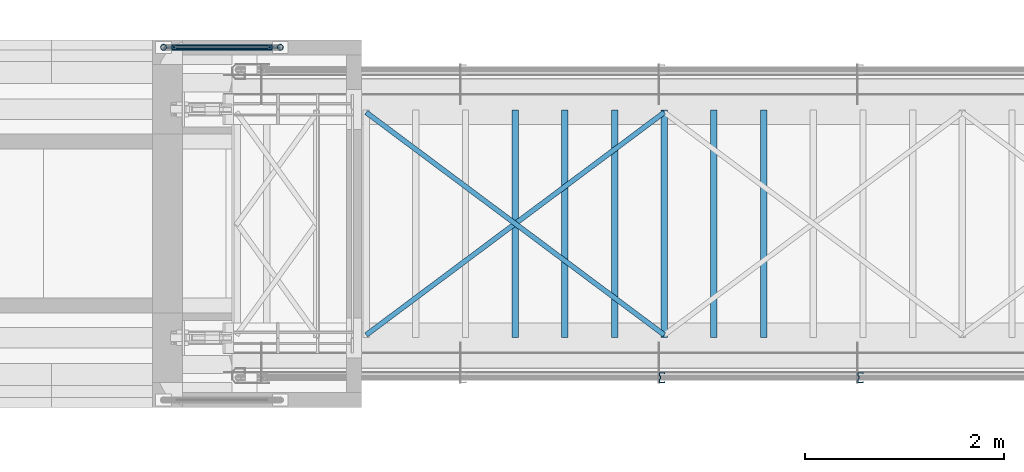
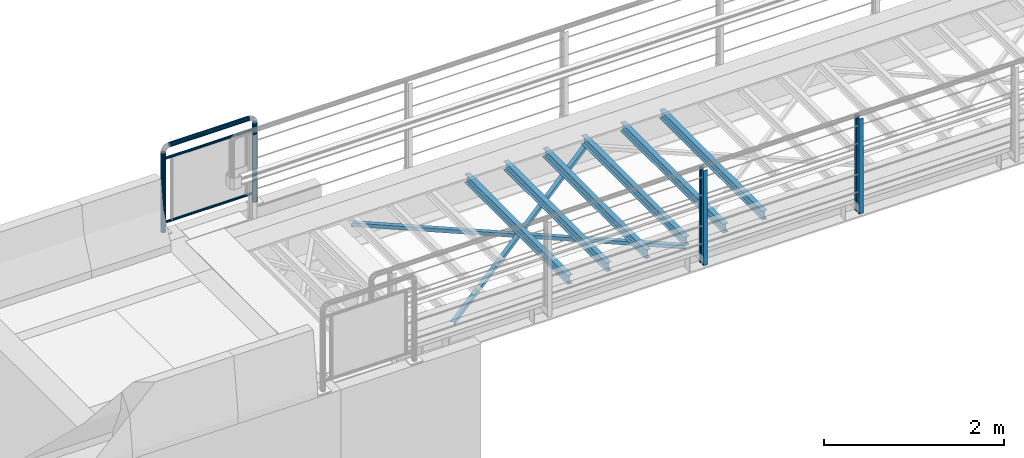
# One storey, part 6 of 31: 15 beams.
"""IFC2X3 building model written with IfcOpenShell, lengths in millimetres."""

from ifc_helpers import new_model, si_unit, frame, origin_with_axes, place, context, subcontext, project, spatial, faceted_brep, material, type_object, element, save


model = new_model("IFC2X3")

# Units and contexts
model_context = context("Model", 3, precision=1e-05, world=origin_with_axes())
body_context = subcontext(model_context, "Body", "Model", "MODEL_VIEW")
ifc_project = project(units=[si_unit("LENGTHUNIT", "METRE", prefix="MILLI"), si_unit("AREAUNIT", "SQUARE_METRE"), si_unit("VOLUMEUNIT", "CUBIC_METRE"), si_unit("MASSUNIT", "GRAM", prefix="KILO"), si_unit("TIMEUNIT", "SECOND"), si_unit("PLANEANGLEUNIT", "RADIAN"), si_unit("SOLIDANGLEUNIT", "STERADIAN"), si_unit("THERMODYNAMICTEMPERATUREUNIT", "DEGREE_CELSIUS"), si_unit("LUMINOUSINTENSITYUNIT", "LUMEN")], contexts=[model_context])

# Site, building, storey
site_placement = place(None, origin_with_axes())
site = spatial("IfcSite", under=ifc_project, at=site_placement, Name="Undefined", CompositionType="ELEMENT")
building_placement = place(site_placement, origin_with_axes())
building = spatial("IfcBuilding", under=site, at=building_placement, Name="Undefined", CompositionType="ELEMENT")
storey_placement = place(building_placement, origin_with_axes())
storey = spatial("IfcBuildingStorey", under=building, at=storey_placement, Name="Undefined", CompositionType="ELEMENT", Elevation=0.0)

# Beams
ifc_material = material(Name="STEEL/S355J2+N")
beam_type_1 = type_object("IfcBeamType", Name="IPE120", PredefinedType="NOTDEFINED")
for number, where, z_axis, x_axis in (
    (1, (8450.0, 5.75, -105.0), (0.0, 0.0, 1.0), (0.0, 1.0, 0.0)),
    (2, (7950.0, 5.75, -105.0), (0.0, 0.0, 1.0), (0.0, 1.0, 0.0)),
    (3, (7450.0, 5.75, -105.0), (0.0, 0.0, 1.0), (0.0, 1.0, 0.0)),
    (4, (6950.0, 5.75, -105.0), (0.0, 0.0, 1.0), (0.0, 1.0, 0.0)),
    (5, (6450.0, 5.75, -105.0), (0.0, 0.0, 1.0), (0.0, 1.0, 0.0)),
    (6, (5950.0, 5.75, -105.0), (0.0, 0.0, 1.0), (0.0, 1.0, 0.0)),
):
    element("IfcBeam", number, at=place(storey_placement, frame(where, z_axis=z_axis, x_axis=x_axis)), inside=storey, type_object=beam_type_1, material=ifc_material, Name="STÅLBJELKE", context=body_context, shape_type="Brep", body=[
        faceted_brep([(0.0, 32.0, -60.0), (0.0, 32.0, -53.699999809), (2288.5, 32.0, -53.699999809), (2288.5, 32.0, -60.0), (0.0, 2.2000000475, -53.699999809), (2288.5, 2.2000000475, -53.699999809), (0.0, 2.2000000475, 53.699999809), (2288.5, 2.2000000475, 53.699999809), (0.0, 32.0, 53.699999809), (2288.5, 32.0, 53.699999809), (0.0, 32.0, 60.0), (2288.5, 32.0, 60.0), (0.0, -32.0, 60.0), (2288.5, -32.0, 60.0), (0.0, -32.0, 53.699999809), (2288.5, -32.0, 53.699999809), (0.0, -2.2000000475, 53.699999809), (2288.5, -2.2000000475, 53.699999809), (0.0, -2.2000000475, -53.699999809), (2288.5, -2.2000000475, -53.699999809), (0.0, -32.0, -53.699999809), (2288.5, -32.0, -53.699999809), (0.0, -32.0, -60.0), (2288.5, -32.0, -60.0)], [[[0, 1, 2, 3]], [[1, 4, 5, 2]], [[4, 6, 7, 5]], [[6, 8, 9, 7]], [[8, 10, 11, 9]], [[10, 12, 13, 11]], [[12, 14, 15, 13]], [[14, 16, 17, 15]], [[16, 18, 19, 17]], [[18, 20, 21, 19]], [[20, 22, 23, 21]], [[22, 0, 3, 23]], [[5, 7, 9, 11, 13, 15, 17, 19, 21, 23, 3, 2]], [[22, 20, 18, 16, 14, 12, 10, 8, 6, 4, 1, 0]]]),
    ])
beam_type_2 = type_object("IfcBeamType", Name="CFCHS60.3*3.2", PredefinedType="NOTDEFINED")
beam_1_placement = place(storey_placement, frame((2410.0, 2925.0, 1093.85), z_axis=(0.0, 1.0, 0.0), x_axis=(0.0, 0.0, -1.0)))
element("IfcBeam", 7, at=beam_1_placement, inside=storey, type_object=beam_type_2, material=ifc_material, Name="LKREKKVERK", context=body_context, shape_type="Brep", body=[
    faceted_brep([(0.0, -26.95, 0.0), (0.0, -24.898553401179, 10.3133185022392), (1078.85, -24.898553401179, 10.3133185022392), (1078.85, -26.9499999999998, 0.0), (0.0, -19.0565277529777, 19.0565277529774), (1078.85, -19.0565277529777, 19.0565277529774), (0.0, -10.3133185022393, 24.8985534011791), (1078.85, -10.3133185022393, 24.8985534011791), (0.0, 0.0, 26.95), (1078.85, 0.0, 26.95), (0.0, 10.3133185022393, 24.8985534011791), (1078.85, 10.3133185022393, 24.8985534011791), (0.0, 19.0565277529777, 19.0565277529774), (1078.85, 19.0565277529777, 19.0565277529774), (0.0, 24.898553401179, 10.3133185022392), (1078.85, 24.898553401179, 10.3133185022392), (0.0, 26.95, 0.0), (1078.85, 26.9499999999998, 0.0), (0.0, 24.898553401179, -10.3133185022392), (1078.85, 24.898553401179, -10.3133185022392), (0.0, 19.0565277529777, -19.0565277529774), (1078.85, 19.0565277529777, -19.0565277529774), (0.0, 10.3133185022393, -24.8985534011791), (1078.85, 10.3133185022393, -24.8985534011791), (0.0, 0.0, -26.95), (1078.85, 0.0, -26.95), (0.0, -10.3133185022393, -24.8985534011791), (1078.85, -10.3133185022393, -24.8985534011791), (0.0, -19.0565277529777, -19.0565277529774), (1078.85, -19.0565277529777, -19.0565277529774), (0.0, -24.898553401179, -10.3133185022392), (1078.85, -24.898553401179, -10.3133185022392), (0.0, -30.15, 0.0), (0.0, -27.8549679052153, -11.5379054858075), (1078.85, -27.8549679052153, -11.5379054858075), (1078.85, -30.1500000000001, 0.0), (0.0, -21.3192694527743, -21.3192694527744), (1078.85, -21.3192694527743, -21.3192694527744), (0.0, -11.5379054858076, -27.8549679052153), (1078.85, -11.5379054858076, -27.8549679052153), (0.0, 0.0, -30.15), (1078.85, 0.0, -30.15), (0.0, 11.5379054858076, -27.8549679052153), (1078.85, 11.5379054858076, -27.8549679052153), (0.0, 21.3192694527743, -21.3192694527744), (1078.85, 21.3192694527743, -21.3192694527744), (0.0, 27.8549679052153, -11.5379054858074), (1078.85, 27.8549679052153, -11.5379054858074), (0.0, 30.15, 0.0), (1078.85, 30.1500000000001, 0.0), (0.0, 27.8549679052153, 11.5379054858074), (1078.85, 27.8549679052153, 11.5379054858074), (0.0, 21.3192694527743, 21.3192694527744), (1078.85, 21.3192694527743, 21.3192694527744), (0.0, 11.5379054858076, 27.8549679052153), (1078.85, 11.5379054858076, 27.8549679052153), (0.0, 0.0, 30.15), (1078.85, 0.0, 30.15), (0.0, -11.5379054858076, 27.8549679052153), (1078.85, -11.5379054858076, 27.8549679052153), (0.0, -21.3192694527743, 21.3192694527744), (1078.85, -21.3192694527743, 21.3192694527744), (0.0, -27.8549679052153, 11.5379054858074), (1078.85, -27.8549679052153, 11.5379054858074)], [[[0, 1, 2, 3]], [[1, 4, 5, 2]], [[4, 6, 7, 5]], [[6, 8, 9, 7]], [[8, 10, 11, 9]], [[10, 12, 13, 11]], [[12, 14, 15, 13]], [[14, 16, 17, 15]], [[16, 18, 19, 17]], [[18, 20, 21, 19]], [[20, 22, 23, 21]], [[22, 24, 25, 23]], [[24, 26, 27, 25]], [[26, 28, 29, 27]], [[28, 30, 31, 29]], [[30, 0, 3, 31]], [[32, 33, 34, 35]], [[33, 36, 37, 34]], [[36, 38, 39, 37]], [[38, 40, 41, 39]], [[40, 42, 43, 41]], [[42, 44, 45, 43]], [[44, 46, 47, 45]], [[46, 48, 49, 47]], [[48, 50, 51, 49]], [[50, 52, 53, 51]], [[52, 54, 55, 53]], [[54, 56, 57, 55]], [[56, 58, 59, 57]], [[58, 60, 61, 59]], [[60, 62, 63, 61]], [[62, 32, 35, 63]], [[37, 39, 41, 43, 45, 47, 49, 51, 53, 55, 57, 59, 61, 63, 35, 34], [5, 7, 9, 11, 13, 15, 17, 19, 21, 23, 25, 27, 29, 31, 3, 2]], [[62, 60, 58, 56, 54, 52, 50, 48, 46, 44, 42, 40, 38, 36, 33, 32], [30, 28, 26, 24, 22, 20, 18, 16, 14, 12, 10, 8, 6, 4, 1, 0]]]),
])
beam_2_placement = place(storey_placement, frame((3585.15, 2925.0, 1093.85), z_axis=(0.0, 1.0, 0.0), x_axis=(0.0, 0.0, -1.0)))
element("IfcBeam", 8, at=beam_2_placement, inside=storey, type_object=beam_type_2, material=ifc_material, Name="LKREKKVERK", context=body_context, shape_type="Brep", body=[
    faceted_brep([(0.0, -26.95, 0.0), (0.0, -24.898553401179, 10.3133185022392), (1078.85, -24.898553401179, 10.3133185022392), (1078.85, -26.9499999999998, 0.0), (0.0, -19.0565277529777, 19.0565277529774), (1078.85, -19.0565277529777, 19.0565277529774), (0.0, -10.3133185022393, 24.8985534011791), (1078.85, -10.3133185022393, 24.8985534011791), (0.0, 0.0, 26.95), (1078.85, 0.0, 26.95), (0.0, 10.3133185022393, 24.8985534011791), (1078.85, 10.3133185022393, 24.8985534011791), (0.0, 19.0565277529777, 19.0565277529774), (1078.85, 19.0565277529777, 19.0565277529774), (0.0, 24.898553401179, 10.3133185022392), (1078.85, 24.898553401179, 10.3133185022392), (0.0, 26.95, 0.0), (1078.85, 26.9499999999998, 0.0), (0.0, 24.898553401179, -10.3133185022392), (1078.85, 24.898553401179, -10.3133185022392), (0.0, 19.0565277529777, -19.0565277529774), (1078.85, 19.0565277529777, -19.0565277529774), (0.0, 10.3133185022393, -24.8985534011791), (1078.85, 10.3133185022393, -24.8985534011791), (0.0, 0.0, -26.95), (1078.85, 0.0, -26.95), (0.0, -10.3133185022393, -24.8985534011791), (1078.85, -10.3133185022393, -24.8985534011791), (0.0, -19.0565277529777, -19.0565277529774), (1078.85, -19.0565277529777, -19.0565277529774), (0.0, -24.898553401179, -10.3133185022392), (1078.85, -24.898553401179, -10.3133185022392), (0.0, -30.15, 0.0), (0.0, -27.8549679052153, -11.5379054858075), (1078.85, -27.8549679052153, -11.5379054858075), (1078.85, -30.1500000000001, 0.0), (0.0, -21.3192694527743, -21.3192694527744), (1078.85, -21.3192694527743, -21.3192694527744), (0.0, -11.5379054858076, -27.8549679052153), (1078.85, -11.5379054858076, -27.8549679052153), (0.0, 0.0, -30.15), (1078.85, 0.0, -30.15), (0.0, 11.5379054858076, -27.8549679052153), (1078.85, 11.5379054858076, -27.8549679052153), (0.0, 21.3192694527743, -21.3192694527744), (1078.85, 21.3192694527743, -21.3192694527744), (0.0, 27.8549679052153, -11.5379054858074), (1078.85, 27.8549679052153, -11.5379054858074), (0.0, 30.15, 0.0), (1078.85, 30.1500000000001, 0.0), (0.0, 27.8549679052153, 11.5379054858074), (1078.85, 27.8549679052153, 11.5379054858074), (0.0, 21.3192694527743, 21.3192694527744), (1078.85, 21.3192694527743, 21.3192694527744), (0.0, 11.5379054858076, 27.8549679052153), (1078.85, 11.5379054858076, 27.8549679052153), (0.0, 0.0, 30.15), (1078.85, 0.0, 30.15), (0.0, -11.5379054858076, 27.8549679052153), (1078.85, -11.5379054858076, 27.8549679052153), (0.0, -21.3192694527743, 21.3192694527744), (1078.85, -21.3192694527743, 21.3192694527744), (0.0, -27.8549679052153, 11.5379054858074), (1078.85, -27.8549679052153, 11.5379054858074)], [[[0, 1, 2, 3]], [[1, 4, 5, 2]], [[4, 6, 7, 5]], [[6, 8, 9, 7]], [[8, 10, 11, 9]], [[10, 12, 13, 11]], [[12, 14, 15, 13]], [[14, 16, 17, 15]], [[16, 18, 19, 17]], [[18, 20, 21, 19]], [[20, 22, 23, 21]], [[22, 24, 25, 23]], [[24, 26, 27, 25]], [[26, 28, 29, 27]], [[28, 30, 31, 29]], [[30, 0, 3, 31]], [[32, 33, 34, 35]], [[33, 36, 37, 34]], [[36, 38, 39, 37]], [[38, 40, 41, 39]], [[40, 42, 43, 41]], [[42, 44, 45, 43]], [[44, 46, 47, 45]], [[46, 48, 49, 47]], [[48, 50, 51, 49]], [[50, 52, 53, 51]], [[52, 54, 55, 53]], [[54, 56, 57, 55]], [[56, 58, 59, 57]], [[58, 60, 61, 59]], [[60, 62, 63, 61]], [[62, 32, 35, 63]], [[37, 39, 41, 43, 45, 47, 49, 51, 53, 55, 57, 59, 61, 63, 35, 34], [5, 7, 9, 11, 13, 15, 17, 19, 21, 23, 25, 27, 29, 31, 3, 2]], [[62, 60, 58, 56, 54, 52, 50, 48, 46, 44, 42, 40, 38, 36, 33, 32], [30, 28, 26, 24, 22, 20, 18, 16, 14, 12, 10, 8, 6, 4, 1, 0]]]),
])
beam_3_placement = place(storey_placement, frame((3508.81, 2925.0, 1169.85), z_axis=(0.0, 1.0, 0.0), x_axis=(-1.0, 0.0, 0.0)))
element("IfcBeam", 9, at=beam_3_placement, inside=storey, type_object=beam_type_2, material=ifc_material, Name="LKREKKVERK", context=body_context, shape_type="Brep", body=[
    faceted_brep([(0.0, -26.95, 0.0), (0.0, -24.898553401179, 10.3133185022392), (1022.81, -24.8985534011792, 10.3133185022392), (1022.81, -26.95, 0.0), (0.0, -19.0565277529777, 19.0565277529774), (1022.81, -19.0565277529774, 19.0565277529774), (0.0, -10.3133185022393, 24.8985534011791), (1022.81, -10.3133185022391, 24.8985534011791), (0.0, 0.0, 26.95), (1022.81, 0.0, 26.95), (0.0, 10.3133185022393, 24.8985534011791), (1022.81, 10.3133185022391, 24.8985534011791), (0.0, 19.0565277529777, 19.0565277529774), (1022.81, 19.0565277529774, 19.0565277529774), (0.0, 24.898553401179, 10.3133185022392), (1022.81, 24.8985534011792, 10.3133185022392), (0.0, 26.95, 0.0), (1022.81, 26.95, 0.0), (0.0, 24.898553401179, -10.3133185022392), (1022.81, 24.8985534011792, -10.3133185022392), (0.0, 19.0565277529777, -19.0565277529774), (1022.81, 19.0565277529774, -19.0565277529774), (0.0, 10.3133185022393, -24.8985534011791), (1022.81, 10.3133185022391, -24.8985534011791), (0.0, 0.0, -26.95), (1022.81, 0.0, -26.95), (0.0, -10.3133185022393, -24.8985534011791), (1022.81, -10.3133185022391, -24.8985534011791), (0.0, -19.0565277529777, -19.0565277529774), (1022.81, -19.0565277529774, -19.0565277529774), (0.0, -24.898553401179, -10.3133185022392), (1022.81, -24.8985534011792, -10.3133185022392), (0.0, -30.15, 0.0), (0.0, -27.8549679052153, -11.5379054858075), (1022.81, -27.8549679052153, -11.5379054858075), (1022.81, -30.1500000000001, 0.0), (0.0, -21.3192694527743, -21.3192694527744), (1022.81, -21.3192694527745, -21.3192694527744), (0.0, -11.5379054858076, -27.8549679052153), (1022.81, -11.5379054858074, -27.8549679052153), (0.0, 0.0, -30.15), (1022.81, 0.0, -30.15), (0.0, 11.5379054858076, -27.8549679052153), (1022.81, 11.5379054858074, -27.8549679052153), (0.0, 21.3192694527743, -21.3192694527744), (1022.81, 21.3192694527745, -21.3192694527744), (0.0, 27.8549679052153, -11.5379054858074), (1022.81, 27.8549679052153, -11.5379054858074), (0.0, 30.15, 0.0), (1022.81, 30.1500000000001, 0.0), (0.0, 27.8549679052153, 11.5379054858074), (1022.81, 27.8549679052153, 11.5379054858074), (0.0, 21.3192694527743, 21.3192694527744), (1022.81, 21.3192694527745, 21.3192694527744), (0.0, 11.5379054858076, 27.8549679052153), (1022.81, 11.5379054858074, 27.8549679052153), (0.0, 0.0, 30.15), (1022.81, 0.0, 30.15), (0.0, -11.5379054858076, 27.8549679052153), (1022.81, -11.5379054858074, 27.8549679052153), (0.0, -21.3192694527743, 21.3192694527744), (1022.81, -21.3192694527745, 21.3192694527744), (0.0, -27.8549679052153, 11.5379054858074), (1022.81, -27.8549679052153, 11.5379054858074)], [[[0, 1, 2, 3]], [[1, 4, 5, 2]], [[4, 6, 7, 5]], [[6, 8, 9, 7]], [[8, 10, 11, 9]], [[10, 12, 13, 11]], [[12, 14, 15, 13]], [[14, 16, 17, 15]], [[16, 18, 19, 17]], [[18, 20, 21, 19]], [[20, 22, 23, 21]], [[22, 24, 25, 23]], [[24, 26, 27, 25]], [[26, 28, 29, 27]], [[28, 30, 31, 29]], [[30, 0, 3, 31]], [[32, 33, 34, 35]], [[33, 36, 37, 34]], [[36, 38, 39, 37]], [[38, 40, 41, 39]], [[40, 42, 43, 41]], [[42, 44, 45, 43]], [[44, 46, 47, 45]], [[46, 48, 49, 47]], [[48, 50, 51, 49]], [[50, 52, 53, 51]], [[52, 54, 55, 53]], [[54, 56, 57, 55]], [[56, 58, 59, 57]], [[58, 60, 61, 59]], [[60, 62, 63, 61]], [[62, 32, 35, 63]], [[37, 39, 41, 43, 45, 47, 49, 51, 53, 55, 57, 59, 61, 63, 35, 34], [5, 7, 9, 11, 13, 15, 17, 19, 21, 23, 25, 27, 29, 31, 3, 2]], [[62, 60, 58, 56, 54, 52, 50, 48, 46, 44, 42, 40, 38, 36, 33, 32], [30, 28, 26, 24, 22, 20, 18, 16, 14, 12, 10, 8, 6, 4, 1, 0]]]),
])
beam_type_3 = type_object("IfcBeamType", Name="CFCHS33.7*2.6", PredefinedType="NOTDEFINED")
beam_4_placement = place(storey_placement, frame((3585.15, 2925.0, 136.85), z_axis=(0.0, 1.0, 0.0), x_axis=(-1.0, 0.0, 0.0)))
element("IfcBeam", 10, at=beam_4_placement, inside=storey, type_object=beam_type_3, material=ifc_material, Name="LKBRØYTETETTPANEL", context=body_context, shape_type="Brep", body=[
    faceted_brep([(0.0, -14.25, 0.0), (0.0, -12.3408620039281, 7.125), (1175.15, -12.3408620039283, 7.125), (1175.15, -14.25, 0.0), (0.0, -7.125, 12.3408620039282), (1175.15, -7.125, 12.3408620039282), (0.0, 0.0, 14.25), (1175.15, 0.0, 14.25), (0.0, 7.125, 12.3408620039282), (1175.15, 7.125, 12.3408620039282), (0.0, 12.3408620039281, 7.125), (1175.15, 12.3408620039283, 7.125), (0.0, 14.25, 0.0), (1175.15, 14.25, 0.0), (0.0, 12.3408620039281, -7.125), (1175.15, 12.3408620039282, -7.125), (0.0, 7.125, -12.3408620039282), (1175.15, 7.125, -12.3408620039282), (0.0, 0.0, -14.25), (1175.15, 0.0, -14.25), (0.0, -7.125, -12.3408620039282), (1175.15, -7.125, -12.3408620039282), (0.0, -12.3408620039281, -7.125), (1175.15, -12.3408620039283, -7.125), (0.0, -16.8499999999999, 0.0), (0.0, -14.5925280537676, -8.42499999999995), (1175.15, -14.5925280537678, -8.42499999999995), (1175.15, -16.85, 0.0), (0.0, -8.42500000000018, -14.5925280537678), (1175.15, -8.42499999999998, -14.5925280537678), (0.0, 0.0, -16.85), (1175.15, 0.0, -16.85), (0.0, 8.42500000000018, -14.5925280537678), (1175.15, 8.42500000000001, -14.5925280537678), (0.0, 14.5925280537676, -8.42499999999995), (1175.15, 14.5925280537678, -8.42499999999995), (0.0, 16.8499999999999, 0.0), (1175.15, 16.85, 0.0), (0.0, 14.5925280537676, 8.42499999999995), (1175.15, 14.5925280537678, 8.42499999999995), (0.0, 8.42500000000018, 14.5925280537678), (1175.15, 8.42499999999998, 14.5925280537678), (0.0, 0.0, 16.85), (1175.15, 0.0, 16.85), (0.0, -8.42500000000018, 14.5925280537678), (1175.15, -8.42500000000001, 14.5925280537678), (0.0, -14.5925280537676, 8.42499999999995), (1175.15, -14.5925280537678, 8.42499999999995)], [[[0, 1, 2, 3]], [[1, 4, 5, 2]], [[4, 6, 7, 5]], [[6, 8, 9, 7]], [[8, 10, 11, 9]], [[10, 12, 13, 11]], [[12, 14, 15, 13]], [[14, 16, 17, 15]], [[16, 18, 19, 17]], [[18, 20, 21, 19]], [[20, 22, 23, 21]], [[22, 0, 3, 23]], [[24, 25, 26, 27]], [[25, 28, 29, 26]], [[28, 30, 31, 29]], [[30, 32, 33, 31]], [[32, 34, 35, 33]], [[34, 36, 37, 35]], [[36, 38, 39, 37]], [[38, 40, 41, 39]], [[40, 42, 43, 41]], [[42, 44, 45, 43]], [[44, 46, 47, 45]], [[46, 24, 27, 47]], [[29, 31, 33, 35, 37, 39, 41, 43, 45, 47, 27, 26], [5, 7, 9, 11, 13, 15, 17, 19, 21, 23, 3, 2]], [[46, 44, 42, 40, 38, 36, 34, 32, 30, 28, 25, 24], [22, 20, 18, 16, 14, 12, 10, 8, 6, 4, 1, 0]]]),
])
beam_5_placement = place(storey_placement, frame((3585.15, 2925.0, 1003.15), z_axis=(0.0, 1.0, 0.0), x_axis=(-1.0, 0.0, 0.0)))
element("IfcBeam", 11, at=beam_5_placement, inside=storey, type_object=beam_type_3, material=ifc_material, Name="LKBRØYTETETTPANEL", context=body_context, shape_type="Brep", body=[
    faceted_brep([(0.0, -14.25, 0.0), (0.0, -12.3408620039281, 7.125), (1175.15, -12.3408620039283, 7.125), (1175.15, -14.25, 0.0), (0.0, -7.125, 12.3408620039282), (1175.15, -7.125, 12.3408620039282), (0.0, 0.0, 14.25), (1175.15, 0.0, 14.25), (0.0, 7.125, 12.3408620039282), (1175.15, 7.125, 12.3408620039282), (0.0, 12.3408620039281, 7.125), (1175.15, 12.3408620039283, 7.125), (0.0, 14.25, 0.0), (1175.15, 14.25, 0.0), (0.0, 12.3408620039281, -7.125), (1175.15, 12.3408620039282, -7.125), (0.0, 7.125, -12.3408620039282), (1175.15, 7.125, -12.3408620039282), (0.0, 0.0, -14.25), (1175.15, 0.0, -14.25), (0.0, -7.125, -12.3408620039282), (1175.15, -7.125, -12.3408620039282), (0.0, -12.3408620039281, -7.125), (1175.15, -12.3408620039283, -7.125), (0.0, -16.8499999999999, 0.0), (0.0, -14.5925280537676, -8.42499999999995), (1175.15, -14.5925280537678, -8.42499999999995), (1175.15, -16.85, 0.0), (0.0, -8.42500000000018, -14.5925280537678), (1175.15, -8.42499999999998, -14.5925280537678), (0.0, 0.0, -16.85), (1175.15, 0.0, -16.85), (0.0, 8.42500000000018, -14.5925280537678), (1175.15, 8.42500000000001, -14.5925280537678), (0.0, 14.5925280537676, -8.42499999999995), (1175.15, 14.5925280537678, -8.42499999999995), (0.0, 16.8499999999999, 0.0), (1175.15, 16.85, 0.0), (0.0, 14.5925280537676, 8.42499999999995), (1175.15, 14.5925280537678, 8.42499999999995), (0.0, 8.42500000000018, 14.5925280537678), (1175.15, 8.42499999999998, 14.5925280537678), (0.0, 0.0, 16.85), (1175.15, 0.0, 16.85), (0.0, -8.42500000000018, 14.5925280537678), (1175.15, -8.42500000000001, 14.5925280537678), (0.0, -14.5925280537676, 8.42499999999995), (1175.15, -14.5925280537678, 8.42499999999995)], [[[0, 1, 2, 3]], [[1, 4, 5, 2]], [[4, 6, 7, 5]], [[6, 8, 9, 7]], [[8, 10, 11, 9]], [[10, 12, 13, 11]], [[12, 14, 15, 13]], [[14, 16, 17, 15]], [[16, 18, 19, 17]], [[18, 20, 21, 19]], [[20, 22, 23, 21]], [[22, 0, 3, 23]], [[24, 25, 26, 27]], [[25, 28, 29, 26]], [[28, 30, 31, 29]], [[30, 32, 33, 31]], [[32, 34, 35, 33]], [[34, 36, 37, 35]], [[36, 38, 39, 37]], [[38, 40, 41, 39]], [[40, 42, 43, 41]], [[42, 44, 45, 43]], [[44, 46, 47, 45]], [[46, 24, 27, 47]], [[29, 31, 33, 35, 37, 39, 41, 43, 45, 47, 27, 26], [5, 7, 9, 11, 13, 15, 17, 19, 21, 23, 3, 2]], [[46, 44, 42, 40, 38, 36, 34, 32, 30, 28, 25, 24], [22, 20, 18, 16, 14, 12, 10, 8, 6, 4, 1, 0]]]),
])
beam_type_4 = type_object("IfcBeamType", Name="CW100-5-10*55-10-30", PredefinedType="NOTDEFINED")
for number, where, z_axis, x_axis in (
    (12, (7427.5, -400.0, 1140.0), (0.0, 1.0, 0.0), (0.0, 0.0, -1.0)),
    (13, (9427.5, -400.0, 1140.0), (0.0, 1.0, 0.0), (0.0, 0.0, -1.0)),
):
    element("IfcBeam", number, at=place(storey_placement, frame(where, z_axis=z_axis, x_axis=x_axis)), inside=storey, type_object=beam_type_4, material=ifc_material, Name="STOLPE", context=body_context, shape_type="Brep", body=[
        faceted_brep([(0.0, -27.5, -50.0), (0.0, 27.5, -50.0), (1290.0, 27.5, -50.0), (1290.0, -27.5, -50.0), (0.0, 27.5, -20.0), (1290.0, 27.5, -20.0), (0.0, 17.5, -10.0), (1290.0, 17.5, -10.0), (0.0, 17.5, 10.0), (1290.0, 17.5, 10.0), (0.0, 27.5, 20.0), (1290.0, 27.5, 20.0), (0.0, 27.5, 50.0), (1290.0, 27.5, 50.0), (0.0, -27.5, 50.0), (1290.0, -27.5, 50.0), (0.0, -27.5, 40.0), (1290.0, -27.5, 40.0), (0.0, -22.5, 40.0), (1290.0, -22.5, 40.0), (0.0, -22.5, 45.0), (1290.0, -22.5, 45.0), (0.0, 22.5, 45.0), (1290.0, 22.5, 45.0), (0.0, 22.5, 21.9149999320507), (1290.0, 22.5, 21.9149999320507), (0.0, 12.5, 11.9149999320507), (1290.0, 12.5, 11.9149999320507), (0.0, 12.5, -11.9149999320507), (1290.0, 12.5, -11.9149999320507), (0.0, 22.5, -21.9149999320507), (1290.0, 22.5, -21.9149999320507), (0.0, 22.5, -45.0), (1290.0, 22.5, -45.0), (0.0, -22.5, -45.0), (1290.0, -22.5, -45.0), (0.0, -22.5, -40.0), (1290.0, -22.5, -40.0), (0.0, -27.5, -40.0), (1290.0, -27.5, -40.0)], [[[0, 1, 2, 3]], [[1, 4, 5, 2]], [[4, 6, 7, 5]], [[6, 8, 9, 7]], [[8, 10, 11, 9]], [[10, 12, 13, 11]], [[12, 14, 15, 13]], [[14, 16, 17, 15]], [[16, 18, 19, 17]], [[18, 20, 21, 19]], [[20, 22, 23, 21]], [[22, 24, 25, 23]], [[24, 26, 27, 25]], [[26, 28, 29, 27]], [[28, 30, 31, 29]], [[30, 32, 33, 31]], [[32, 34, 35, 33]], [[34, 36, 37, 35]], [[36, 38, 39, 37]], [[38, 0, 3, 39]], [[5, 7, 9, 11, 13, 15, 17, 19, 21, 23, 25, 27, 29, 31, 33, 35, 37, 39, 3, 2]], [[38, 36, 34, 32, 30, 28, 26, 24, 22, 20, 18, 16, 14, 12, 10, 8, 6, 4, 1, 0]]]),
    ])
beam_type_5 = type_object("IfcBeamType", Name="L50*5", PredefinedType="NOTDEFINED")
for number, where, z_axis, x_axis in (
    (14, (4450.0, 2270.0, -190.0), (0.0, 0.0, -1.0), (0.801280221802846, -0.598289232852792, 0.0)),
    (15, (4450.00000103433, 29.9999986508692, -190.0), (0.0, 0.0, -1.0), (0.801280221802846, 0.598289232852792, 0.0)),
):
    element("IfcBeam", number, at=place(storey_placement, frame(where, z_axis=z_axis, x_axis=x_axis)), inside=storey, type_object=beam_type_5, material=ifc_material, Name="STÅLBJELKE", context=body_context, shape_type="Brep", body=[
        faceted_brep([(-1.81898940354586e-12, 24.9999999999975, -25.0), (-1.81898940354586e-12, 24.9999999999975, 25.0), (3744.00854697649, 25.0000000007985, 25.0), (3744.00854697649, 25.0000000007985, -25.0), (-1.36424205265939e-12, 19.999999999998, 25.0), (3744.00854697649, 20.0000000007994, 25.0), (-1.36424205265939e-12, 19.999999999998, -20.0), (3744.00854697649, 20.0000000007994, -20.0), (1.81898940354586e-12, -24.9999999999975, -20.0), (3744.0085469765, -24.9999999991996, -20.0), (1.81898940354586e-12, -24.9999999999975, -25.0), (3744.0085469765, -24.9999999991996, -25.0)], [[[0, 1, 2, 3]], [[1, 4, 5, 2]], [[4, 6, 7, 5]], [[6, 8, 9, 7]], [[8, 10, 11, 9]], [[10, 0, 3, 11]], [[5, 7, 9, 11, 3, 2]], [[10, 8, 6, 4, 1, 0]]]),
    ])

save(model, "model.ifc")
